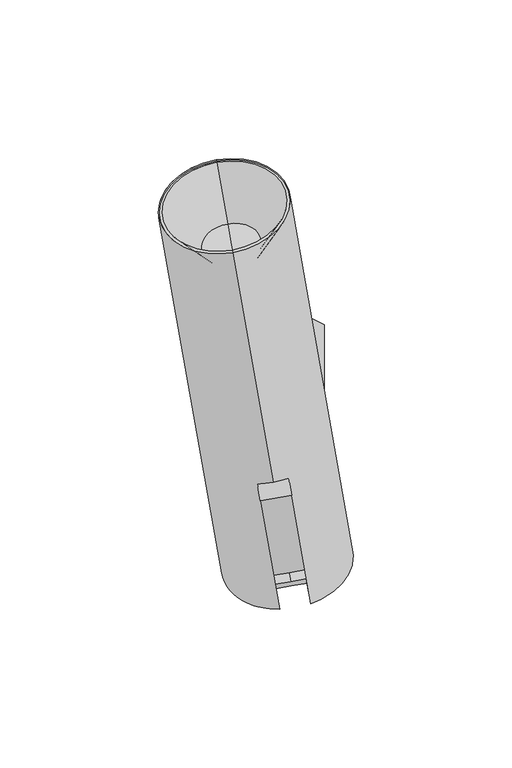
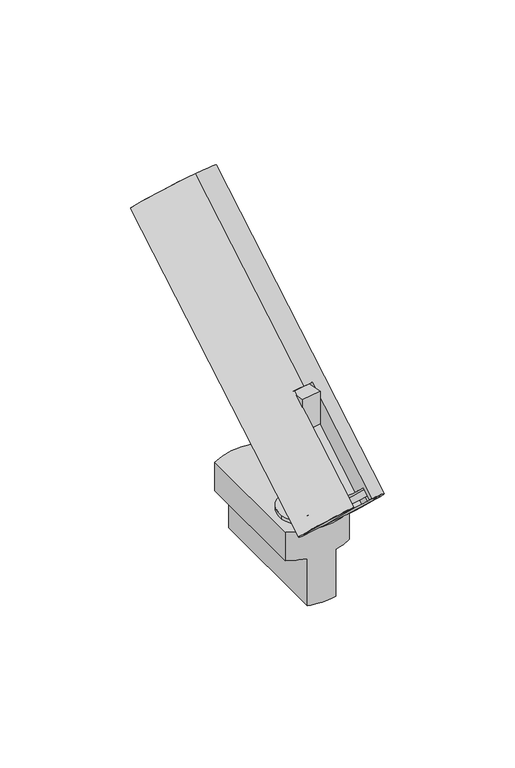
"""IFC4 building model written with IfcOpenShell, lengths in millimetres: light fixture geometry, PIPES T XS : 630lm 7,8W 840 38°."""

import ifcopenshell
import ifcopenshell.guid

model = None  # the IFC model being written
_history = None  # IfcOwnerHistory: only IFC2X3 demands one
_inside = {}  # id of a spatial element -> (the spatial element, [elements in it])
_under = {}  # id of a project, library or spatial element -> (it, [spatial elements below it])
_declared = {}  # id of a project -> (the project, [libraries it declares])
_typed = {}  # id of a type object -> (the type object, [elements of that type])
_made_of = {}  # id of a material, layer set ... -> (it, [elements and type objects made of it])


def new_model(schema):
    """Start an empty IFC model of exactly this schema.

    Asked for "IFC4X3", IfcOpenShell would pick the latest addendum, in which some entities
    have other attributes; the version numbers below select the first issue.
    IFC2X3 requires an IfcOwnerHistory on every rooted entity: one is made here for all.
    """
    global model, _history
    if schema == "IFC4X3":
        model = ifcopenshell.file(schema_version=(4, 3, 0, 0))
    else:
        model = ifcopenshell.file(schema=schema)
    _inside.clear()
    _under.clear()
    _declared.clear()
    _typed.clear()
    _made_of.clear()
    _history = None
    if model.schema == "IFC2X3":
        org = make("IfcOrganization", Name="unknown")
        user = make(
            "IfcPersonAndOrganization",
            ThePerson=make("IfcPerson", FamilyName="unknown"),
            TheOrganization=org,
        )
        app = make(
            "IfcApplication",
            ApplicationDeveloper=org,
            Version="unknown",
            ApplicationFullName="unknown",
            ApplicationIdentifier="unknown",
        )
        _history = make(
            "IfcOwnerHistory",
            OwningUser=user,
            OwningApplication=app,
            ChangeAction="ADDED",
            CreationDate=0,
        )
    return model


def make(cls, **values):
    """One entity of the class cls with the attributes given. An attribute that is None is left unset."""
    return model.create_entity(
        cls, **{name: value for name, value in values.items() if value is not None}
    )


def rooted(cls, **values):
    """An entity with a GlobalId (a new one), such as an element, a storey or a relation."""
    return make(cls, GlobalId=ifcopenshell.guid.new(), OwnerHistory=_history, **values)


def si_unit(unit_type, name, prefix=None):
    """IfcSIUnit, for example si_unit("LENGTHUNIT", "METRE", prefix="MILLI")."""
    return make("IfcSIUnit", UnitType=unit_type, Prefix=prefix, Name=name)


def assignment(units):
    """IfcUnitAssignment: the units of a project."""
    return None if units is None else make("IfcUnitAssignment", Units=units)


def point(xyz):
    """IfcCartesianPoint."""
    return None if xyz is None else make("IfcCartesianPoint", Coordinates=xyz)


def direction(xyz):
    """IfcDirection."""
    return None if xyz is None else make("IfcDirection", DirectionRatios=xyz)


def frame(location, z_axis=None, x_axis=None):
    """IfcAxis2Placement3D, a coordinate frame: its origin and axes. An axis left out is left unset."""
    return make(
        "IfcAxis2Placement3D",
        Location=point(location),
        Axis=direction(z_axis),
        RefDirection=direction(x_axis),
    )


def frame_2d(location, x_axis=None):
    """IfcAxis2Placement2D, a coordinate frame in the plane: its origin and x axis."""
    return make(
        "IfcAxis2Placement2D", Location=point(location), RefDirection=direction(x_axis)
    )


def origin():
    """The frame at (0, 0, 0) with its axes left unset."""
    return frame((0.0, 0.0, 0.0))


def origin_2d():
    """The frame at (0, 0) in the plane with its x axis left unset."""
    return frame_2d((0.0, 0.0))


def place(relative_to, where):
    """IfcLocalPlacement: puts the frame where relative to a parent placement (None: the world)."""
    return make(
        "IfcLocalPlacement", PlacementRelTo=relative_to, RelativePlacement=where
    )


def context(
    kind, dimensions, precision=None, world=None, true_north=None, identifier=None
):
    """IfcGeometricRepresentationContext, for example the 3D "Model" context."""
    return make(
        "IfcGeometricRepresentationContext",
        ContextIdentifier=identifier,
        ContextType=kind,
        CoordinateSpaceDimension=dimensions,
        Precision=precision,
        WorldCoordinateSystem=world,
        TrueNorth=true_north,
    )


def project(units=None, contexts=None):
    """IfcProject with its units and contexts."""
    return rooted(
        "IfcProject",
        Name="project",
        RepresentationContexts=contexts,
        UnitsInContext=assignment(units),
    )


def spatial(cls, under=None, at=None, **own):
    """A site, building, storey or space (cls), placed at a placement, below another one or the project."""
    s = rooted(cls, ObjectPlacement=at, **own)
    if under is not None:
        _under.setdefault(under.id(), (under, []))[1].append(s)
    return s


def polyline(points):
    """IfcPolyline through the points."""
    return make("IfcPolyline", Points=[point(p) for p in points])


def circle_curve(where, radius):
    """IfcCircle in the frame where."""
    return make("IfcCircle", Position=where, Radius=radius)


def trimmed(basis, trim1, trim2, sense, master):
    """IfcTrimmedCurve: the piece of a basis curve between two trims."""
    return make(
        "IfcTrimmedCurve",
        BasisCurve=basis,
        Trim1=trim1,
        Trim2=trim2,
        SenseAgreement=sense,
        MasterRepresentation=master,
    )


def segment(curve, same_sense, transition):
    """IfcCompositeCurveSegment."""
    return make(
        "IfcCompositeCurveSegment",
        Transition=transition,
        SameSense=same_sense,
        ParentCurve=curve,
    )


def composite_curve(segments, self_intersect=None):
    """IfcCompositeCurve: segments joined end to end."""
    return make("IfcCompositeCurve", Segments=segments, SelfIntersect=self_intersect)


def outline(outer, holes=None, kind="AREA"):
    """IfcArbitraryClosedProfileDef: a profile drawn as a closed curve; with holes, ...WithVoids."""
    if holes is None:
        return make("IfcArbitraryClosedProfileDef", ProfileType=kind, OuterCurve=outer)
    return make(
        "IfcArbitraryProfileDefWithVoids",
        ProfileType=kind,
        OuterCurve=outer,
        InnerCurves=holes,
    )


def extrude(swept, where, along, depth):
    """IfcExtrudedAreaSolid: the profile swept, set in the frame where, extruded along a direction by depth."""
    return make(
        "IfcExtrudedAreaSolid",
        SweptArea=swept,
        Position=where,
        ExtrudedDirection=direction(along),
        Depth=depth,
    )


def shape(context_of_items, identifier, shape_type, items):
    """IfcShapeRepresentation: the items that make up one representation, for example the "Body"."""
    return make(
        "IfcShapeRepresentation",
        ContextOfItems=context_of_items,
        RepresentationIdentifier=identifier,
        RepresentationType=shape_type,
        Items=items,
    )


def source(mapping_origin, context_of_items, identifier, shape_type, items):
    """IfcRepresentationMap: a shape defined once, which mapped items show again and again."""
    return make(
        "IfcRepresentationMap",
        MappingOrigin=mapping_origin,
        MappedRepresentation=shape(context_of_items, identifier, shape_type, items),
    )


def transform(
    local_origin,
    x_axis=None,
    y_axis=None,
    z_axis=None,
    scale=None,
    scale2=None,
    scale3=None,
    uniform=True,
):
    """IfcCartesianTransformationOperator3D, or its non-uniform kind. x_axis, y_axis, z_axis: its Axis1, 2, 3."""
    if uniform:
        return make(
            "IfcCartesianTransformationOperator3D",
            Axis1=direction(x_axis),
            Axis2=direction(y_axis),
            LocalOrigin=point(local_origin),
            Scale=scale,
            Axis3=direction(z_axis),
        )
    return make(
        "IfcCartesianTransformationOperator3DnonUniform",
        Axis1=direction(x_axis),
        Axis2=direction(y_axis),
        LocalOrigin=point(local_origin),
        Scale=scale,
        Axis3=direction(z_axis),
        Scale2=scale2,
        Scale3=scale3,
    )


def mapped(mapping_source, mapping_target):
    """IfcMappedItem: shows the shape of a source again, moved by a transform."""
    return make(
        "IfcMappedItem", MappingSource=mapping_source, MappingTarget=mapping_target
    )


def made_of(thing, what):
    """Note that an element or type object is made of a material, layer set ...; save() writes the relation."""
    if what is not None:
        _made_of.setdefault(what.id(), (what, []))[1].append(thing)
    return thing


def element(
    cls,
    number,
    at=None,
    inside=None,
    cuts=None,
    type_object=None,
    material=None,
    context=None,
    identifier="Body",
    shape_type=None,
    held_by="IfcProductDefinitionShape",
    body=None,
    shapes=None,
    **own,
):
    """One element of the class cls, such as IfcWall. Its Tag is "e" and its number.

    at: its placement. inside: the storey or other place that contains it. cuts: it is an
    opening in that element (IfcRelVoidsElement). A single representation is given by context,
    identifier, shape_type and body (its items); several are given by shapes. held_by: the class
    of the entity that holds the representations. save() writes the other relations.
    """
    e = rooted(cls, Tag="e%d" % number, ObjectPlacement=at, **own)
    if body is not None:
        shapes = [shape(context, identifier, shape_type, body)]
    if shapes is not None:
        e.Representation = make(held_by, Representations=shapes)
    if inside is not None:
        _inside.setdefault(inside.id(), (inside, []))[1].append(e)
    if cuts is not None:
        rooted(
            "IfcRelVoidsElement", RelatingBuildingElement=cuts, RelatedOpeningElement=e
        )
    if type_object is not None:
        _typed.setdefault(type_object.id(), (type_object, []))[1].append(e)
    return made_of(e, material)


def aggregate(whole, parts):
    """IfcRelAggregates: a whole, such as a stair, and the parts it consists of."""
    return rooted("IfcRelAggregates", RelatingObject=whole, RelatedObjects=parts)


def save(model, path):
    """Write the relations noted so far, then the file.

    IfcRelAggregates (storeys below a building ...), IfcRelContainedInSpatialStructure (elements
    in a storey), IfcRelDefinesByType, IfcRelAssociatesMaterial and IfcRelDeclares: one each for
    every whole, place, type object, material and project.
    """
    for whole, parts in _under.values():
        aggregate(whole, parts)
    for where, things in _inside.values():
        rooted(
            "IfcRelContainedInSpatialStructure",
            RelatedElements=things,
            RelatingStructure=where,
        )
    for kind, things in _typed.values():
        rooted("IfcRelDefinesByType", RelatedObjects=things, RelatingType=kind)
    for what, things in _made_of.values():
        rooted("IfcRelAssociatesMaterial", RelatedObjects=things, RelatingMaterial=what)
    for by, libraries in _declared.values():
        rooted("IfcRelDeclares", RelatingContext=by, RelatedDefinitions=libraries)
    model.write(path)


def plane_surface(at):
    """IfcPlane: the flat surface through the origin of the frame at, square to its z axis."""
    return make("IfcPlane", Position=at)


def cylinder_surface(at, radius):
    """IfcCylindricalSurface: all points at the distance radius from the z axis of the frame at."""
    return make("IfcCylindricalSurface", Position=at, Radius=radius)


def revolved_surface(curve, axis_point, axis_direction):
    """IfcSurfaceOfRevolution: the curve turned about the line through axis_point along axis_direction."""
    return make(
        "IfcSurfaceOfRevolution",
        SweptCurve=make("IfcArbitraryOpenProfileDef", ProfileType="CURVE", Curve=curve),
        AxisPosition=make("IfcAxis1Placement", Location=point(axis_point), Axis=direction(axis_direction)),
    )


def advanced_brep(points, edges, surfaces, faces):
    """IfcAdvancedBrep: a solid bounded by faces that lie on surfaces and meet in shared edges.

    An edge is (start, end): straight between two places in points (the first is 0);
    or (start, end, curve); or (start, end, curve, False) where it runs against its curve.
    A face is (place in surfaces, loops), or (place, loops, False) where it looks against
    its surface's normal. A loop lists edges by number (the first is 1), with a minus sign
    where the edge is run from its end to its start. The first loop is the outer one.
    """
    corners = [point(p) for p in points]
    vertices = [make("IfcVertexPoint", VertexGeometry=c) for c in corners]
    made = []
    for start, end, *more in edges:
        made.append(
            make(
                "IfcEdgeCurve",
                EdgeStart=vertices[start],
                EdgeEnd=vertices[end],
                EdgeGeometry=more[0] if more else make("IfcPolyline", Points=[corners[start], corners[end]]),
                SameSense=more[1] if len(more) > 1 else True,
            )
        )
    hull = []
    for where, loops, *sense in faces:
        bounds = []
        for j, loop in enumerate(loops):
            ring = [make("IfcOrientedEdge", EdgeElement=made[abs(k) - 1], Orientation=k > 0) for k in loop]
            bounds.append(
                make(
                    "IfcFaceOuterBound" if j == 0 else "IfcFaceBound",
                    Bound=make("IfcEdgeLoop", EdgeList=ring),
                    Orientation=True,
                )
            )
        hull.append(make("IfcAdvancedFace", Bounds=bounds, FaceSurface=surfaces[where], SameSense=sense[0] if sense else True))
    return make("IfcAdvancedBrep", Outer=make("IfcClosedShell", CfsFaces=hull))


def light_fixture_bf18bd5a(model_context):
    return source(origin(), model_context, "Body", "SolidModel", [
        extrude(outline(composite_curve([segment(polyline([(39.7303383, 0.0), (39.7303383, -8.0), (36.7303383, -8.0), (36.7303383, -10.0000001), (-21.31827, -10.0000001), (-21.31827, -2.0)]), True, "CONTINUOUS"), segment(trimmed(circle_curve(frame_2d((-15.691322, -2.0)), 5.626948), [point((-21.31827, -2.0))], [point((-15.691322, 3.626948))], False, "CARTESIAN"), True, "CONTINUOUS"), segment(polyline([(-15.691322, 3.626948), (-9.8735653, 3.626948)]), True, "CONTINUOUS"), segment(trimmed(circle_curve(frame_2d((-17.7182036, -2.2388678)), 9.7952104), [point((-9.8735653, 3.626948))], [point((-8.1822916, 0.0))], False, "CARTESIAN"), True, "CONTINUOUS"), segment(polyline([(-8.1822916, 0.0), (39.7303383, 0.0)]), True, "CONTINUOUS")], self_intersect=False)), frame((-5.7922797, 4.0557979, 56.5303383), z_axis=(0.9848077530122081, 0.1736481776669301, 0.0), x_axis=(0.0, 0.0, -1.0)), (0.0, 0.0, 1.0), 10.0),
        extrude(outline(composite_curve([segment(trimmed(circle_curve(origin_2d(), 12.5), [point((12.3100969, 2.1706022))], [point((-12.3100969, -2.1706022))], False, "CARTESIAN"), True, "CONTINUOUS"), segment(trimmed(circle_curve(origin_2d(), 12.5), [point((-12.3100969, -2.1706022))], [point((12.3100969, 2.1706022))], False, "CARTESIAN"), True, "CONTINUOUS")], self_intersect=False)), frame((0.0, 0.0, 15.0), z_axis=(0.0, 0.0, 1.0), x_axis=(1.0, 0.0, 0.0)), (0.0, 0.0, 1.0), 1.8),
        advanced_brep(
        [(-7.1153658, -15.2862846, -25.0), (-7.1153658, 53.3498174, -25.0), (7.1153658, 53.3498174, -25.0), (7.1153658, -15.2862846, -25.0), (-16.1153658, 49.7317664, 15.0), (-16.1153658, -11.6682336, 15.0), (16.1153658, -11.6682336, 15.0), (16.1153658, 49.7317664, 15.0), (-16.1153658, 49.7317664, 0.0), (-16.1153658, -11.6682336, 0.0), (-7.1153658, -15.2862846, 0.0), (7.1153658, -15.2862846, 0.0), (16.1153658, -11.6682336, 0.0), (16.1153658, 49.7317664, 0.0), (7.1153658, 53.3498174, 0.0), (-7.1153658, 53.3498174, 0.0)],
        [
            (0, 1),
            (1, 2, circle_curve(frame((0.0, 22.6472542, -25.0), z_axis=(0.0, 0.0, -1.0), x_axis=(1.0, 0.0, 0.0)), 31.5162786)),
            (2, 3),
            (3, 0, circle_curve(frame((0.0, 15.4162786, -25.0), z_axis=(0.0, 0.0, -1.0), x_axis=(1.0, 0.0, 0.0)), 31.5162786)),
            (4, 5),
            (5, 6, circle_curve(frame((0.0, 15.4162786, 15.0), z_axis=(0.0, 0.0, 1.0), x_axis=(1.0, 0.0, 0.0)), 31.5162786)),
            (6, 7),
            (7, 4, circle_curve(frame((0.0, 22.6472542, 15.0), z_axis=(0.0, 0.0, 1.0), x_axis=(1.0, 0.0, 0.0)), 31.5162786)),
            (4, 8),
            (8, 9),
            (9, 5),
            (9, 10, circle_curve(frame((0.0, 15.4162786, 0.0), z_axis=(0.0, 0.0, 1.0), x_axis=(1.0, 0.0, 0.0)), 31.5162786)),
            (10, 0),
            (3, 11),
            (11, 12, circle_curve(frame((0.0, 15.4162786, 0.0), z_axis=(0.0, 0.0, 1.0), x_axis=(1.0, 0.0, 0.0)), 31.5162786)),
            (12, 6),
            (12, 13),
            (13, 7),
            (13, 14, circle_curve(frame((0.0, 22.6472542, 0.0), z_axis=(0.0, 0.0, 1.0), x_axis=(1.0, 0.0, 0.0)), 31.5162786)),
            (14, 2),
            (1, 15),
            (15, 8, circle_curve(frame((0.0, 22.6472542, 0.0), z_axis=(0.0, 0.0, 1.0), x_axis=(1.0, 0.0, 0.0)), 31.5162786)),
            (15, 10),
            (11, 14),
        ],
        [
            plane_surface(frame((-16.1153658, -11.6883244, -25.0), z_axis=(0.0, 0.0, -1.0), x_axis=(0.0, 1.0, 0.0))),
            plane_surface(frame((-16.1153658, -11.6883244, 15.0), z_axis=(0.0, 0.0, 1.0), x_axis=(0.0, -1.0, 0.0))),
            plane_surface(frame((-16.1153658, 49.7317664, 15.0), z_axis=(-1.0, 0.0, 0.0), x_axis=(0.0, 0.0, -1.0))),
            cylinder_surface(frame((0.0, 15.4162786, -25.0), z_axis=(0.0, 0.0, 1.0), x_axis=(1.0, 0.0, 0.0)), 31.5162786),
            plane_surface(frame((16.1153658, -11.6682336, 15.0), z_axis=(1.0, 0.0, 0.0), x_axis=(0.0, 0.0, -1.0))),
            cylinder_surface(frame((0.0, 22.6472542, -25.0), z_axis=(0.0, 0.0, 1.0), x_axis=(1.0, 0.0, 0.0)), 31.5162786),
            plane_surface(frame((-7.1153658, 58.6979838, 0.0), z_axis=(0.0, 0.0, -1.0), x_axis=(-1.0, 0.0, 0.0))),
            plane_surface(frame((-7.1153658, -21.3020162, 0.0), z_axis=(-1.0, 0.0, 0.0), x_axis=(0.0, 0.0, -1.0))),
            plane_surface(frame((7.1153658, -11.6883244, 0.0), z_axis=(0.0, 0.0, -1.0), x_axis=(0.0, -1.0, 0.0))),
            plane_surface(frame((7.1153658, 58.6979838, 0.0), z_axis=(1.0, 0.0, 0.0), x_axis=(0.0, 0.0, -1.0))),
        ],
        [
            (0, [[1, 2, 3, 4]]),
            (1, [[5, 6, 7, 8]]),
            (2, [[-5, 9, 10, 11]]),
            (3, [[-6, -11, 12, 13, -4, 14, 15, 16]]),
            (4, [[-7, -16, 17, 18]]),
            (5, [[-8, -18, 19, 20, -2, 21, 22, -9]]),
            (6, [[23, -12, -10, -22]]),
            (7, [[-23, -21, -1, -13]]),
            (8, [[24, -19, -17, -15]]),
            (9, [[-24, -14, -3, -20]]),
        ],
    ),
        advanced_brep(
        [(3.6961607, 7.8318833, 73.0), (9.9583387, -27.682693, 36.9375542), (10.8584105, -32.7872537, 42.120861), (11.5951373, -36.9654391, 37.8782203), (11.8487893, -38.4039712, 39.338944), (4.8498845, 1.2887905, 79.6440305), (-6.1519168, 6.0954015, 73.0), (-4.998193, -0.4476912, 79.6440305), (2.0007118, -40.1404529, 39.338944), (1.7470598, -38.7019209, 37.8782203), (1.010333, -34.5237355, 42.120861), (0.1102612, -29.4191747, 36.9375542), (5.0343, -28.5509339, 36.9375542), (0.0, 0.0, 80.0710678), (-12.7699316, 72.421881, 153.6101731), (-17.9270194, 101.6691791, 123.9116882), (1.8418171, -10.4454636, 10.0674965), (2.0873927, -11.8381921, 11.48171), (1.3506658, -7.6600066, 15.7243507), (3.6836341, -20.8909272, 29.1593796), (-14.3047792, 81.126434, 118.6083874), (-11.8490231, 67.1991492, 132.750523), (-13.0769011, 74.1627916, 125.6794552)],
        [
            (0, 1),
            (1, 2),
            (2, 3),
            (3, 4),
            (4, 5),
            (5, 0),
            (6, 7),
            (7, 8),
            (8, 9),
            (9, 10),
            (10, 11),
            (11, 6),
            (0, 6),
            (11, 12),
            (12, 1),
            (5, 13, circle_curve(frame((-2.5785439, 14.623649, 65.2218254), z_axis=(0.12278780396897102, -0.696364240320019, -0.7071067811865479), x_axis=(0.12278780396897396, -0.6963642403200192, 0.7071067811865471)), 21.0)),
            (13, 7, circle_curve(frame((-2.5785439, 14.623649, 65.2218254), z_axis=(0.12278780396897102, -0.696364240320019, -0.7071067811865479), x_axis=(0.12278780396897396, -0.6963642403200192, 0.7071067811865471)), 21.0)),
            (14, 15, circle_curve(frame((-15.3484755, 87.04553, 138.7609307), z_axis=(0.12278780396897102, -0.696364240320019, -0.7071067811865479), x_axis=(0.12278780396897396, -0.6963642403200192, 0.7071067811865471)), 21.0)),
            (15, 16),
            (16, 8, circle_curve(frame((4.4203609, -25.0691127, 24.9167389), z_axis=(-0.12278780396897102, 0.696364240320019, 0.7071067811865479), x_axis=(0.12278780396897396, -0.6963642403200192, 0.7071067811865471)), 21.0)),
            (13, 14),
            (15, 14, circle_curve(frame((-15.3484755, 87.04553, 138.7609307), z_axis=(0.12278780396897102, -0.696364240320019, -0.7071067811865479), x_axis=(0.12278780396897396, -0.6963642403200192, 0.7071067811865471)), 21.0)),
            (4, 16, circle_curve(frame((4.4203609, -25.0691127, 24.9167389), z_axis=(-0.12278780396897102, 0.696364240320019, 0.7071067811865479), x_axis=(0.12278780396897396, -0.6963642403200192, 0.7071067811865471)), 21.0)),
            (16, 17),
            (17, 9, circle_curve(frame((4.4203609, -25.0691127, 24.9167389), z_axis=(-0.12278780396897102, 0.696364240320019, 0.7071067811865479), x_axis=(0.12278780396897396, -0.6963642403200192, 0.7071067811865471)), 19.0)),
            (3, 17, circle_curve(frame((4.4203609, -25.0691127, 24.9167389), z_axis=(-0.12278780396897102, 0.696364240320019, 0.7071067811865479), x_axis=(0.12278780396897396, -0.6963642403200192, 0.7071067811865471)), 19.0)),
            (17, 18),
            (18, 10, circle_curve(frame((3.6836341, -20.8909272, 29.1593796), z_axis=(-0.12278780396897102, 0.696364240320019, 0.7071067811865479), x_axis=(0.12278780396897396, -0.6963642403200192, 0.7071067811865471)), 19.0)),
            (2, 18, circle_curve(frame((3.6836341, -20.8909272, 29.1593796), z_axis=(-0.12278780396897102, 0.696364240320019, 0.7071067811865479), x_axis=(0.12278780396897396, -0.6963642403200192, 0.7071067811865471)), 19.0)),
            (18, 19),
            (19, 12),
            (20, 21, circle_curve(frame((-13.0769011, 74.1627916, 125.6794552), z_axis=(-0.12278780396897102, 0.696364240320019, 0.7071067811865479), x_axis=(0.12278780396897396, -0.6963642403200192, 0.7071067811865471)), 10.0)),
            (21, 22),
            (22, 20),
            (21, 20, circle_curve(frame((-13.0769011, 74.1627916, 125.6794552), z_axis=(-0.12278780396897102, 0.696364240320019, 0.7071067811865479), x_axis=(0.12278780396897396, -0.6963642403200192, 0.7071067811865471)), 10.0)),
            (14, 21),
            (20, 15),
        ],
        [
            plane_surface(frame((3.6961607, 7.8318833, 73.0), z_axis=(-0.9848077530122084, -0.1736481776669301, 0.0), x_axis=(-0.12278780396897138, 0.696364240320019, 0.7071067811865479))),
            plane_surface(frame((-6.1519168, 6.0954015, 73.0), z_axis=(0.9848077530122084, 0.1736481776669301, 0.0), x_axis=(0.12278780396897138, -0.696364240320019, -0.7071067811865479))),
            plane_surface(frame((-6.1519168, 6.0954015, 73.0), z_axis=(0.12278780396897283, -0.6963642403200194, 0.7071067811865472), x_axis=(0.9848077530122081, 0.1736481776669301, 0.0))),
            plane_surface(frame((-3.6961607, -7.8318833, 87.1421356), z_axis=(0.12278780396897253, -0.6963642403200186, -0.707106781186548), x_axis=(0.9848077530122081, 0.1736481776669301, 0.0))),
            cylinder_surface(frame((5.4582102, -30.9550485, 18.940003), z_axis=(0.12278780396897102, -0.696364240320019, -0.7071067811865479), x_axis=(0.12278780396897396, -0.6963642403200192, 0.7071067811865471)), 21.0),
            plane_surface(frame((4.4203609, -25.0691127, 24.9167389), z_axis=(0.12278780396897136, -0.6963642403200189, -0.707106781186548), x_axis=(0.12278780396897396, -0.6963642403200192, 0.7071067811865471))),
            revolved_surface(polyline([(6.753329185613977, -38.30003325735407, 38.35176769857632), (6.016602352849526, -34.12184776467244, 42.5944084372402)]), (5.4582102, -30.9550485, 18.940003), (0.12278780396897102, -0.696364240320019, -0.7071067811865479)),
            plane_surface(frame((3.6836341, -20.8909272, 29.1593796), z_axis=(0.12278780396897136, -0.6963642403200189, -0.707106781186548), x_axis=(0.12278780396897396, -0.6963642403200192, 0.7071067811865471))),
            plane_surface(frame((-13.0769011, 74.1627916, 125.6794552), z_axis=(-0.12278780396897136, 0.6963642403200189, 0.707106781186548), x_axis=(0.12278780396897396, -0.6963642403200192, 0.7071067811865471))),
            revolved_surface(polyline([(-11.8490231, 67.1991492, 132.750523), (-12.7699316, 72.421881, 153.6101731)]), (5.4582102, -30.9550485, 18.940003), (0.12278780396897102, -0.696364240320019, -0.7071067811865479)),
        ],
        [
            (0, [[1, 2, 3, 4, 5, 6]]),
            (1, [[7, 8, 9, 10, 11, 12]]),
            (2, [[13, -12, 14, 15, -1]]),
            (3, [[-13, -6, 16, 17, -7]]),
            (4, [[18, 19, 20, -8, -17, 21]]),
            (4, [[-19, 22, -21, -16, -5, 23]]),
            (5, [[24, 25, -9, -20]]),
            (5, [[-24, -23, -4, 26]]),
            (6, [[27, 28, -10, -25]]),
            (6, [[-27, -26, -3, 29]]),
            (7, [[30, 31, -14, -11, -28]]),
            (7, [[-30, -29, -2, -15, -31]]),
            (8, [[32, 33, 34]]),
            (8, [[-33, 35, -34]]),
            (9, [[-18, 36, -32, 37]]),
            (9, [[-22, -37, -35, -36]]),
        ],
    ),
        advanced_brep(
        [(10.4494899, -30.4681499, 34.109127), (10.6950656, -31.8608784, 32.6949135), (11.3386487, -35.51082, 36.4011613), (11.0930731, -34.1180915, 37.8153748), (0.846988, -33.5973602, 32.6949135), (0.6014124, -32.2046317, 34.109127), (1.2449956, -35.8545733, 37.8153748), (1.4905712, -37.2473018, 36.4011613), (5.5254512, -31.3363908, 34.109127), (5.7710268, -32.7291193, 32.6949135), (4.1747853, -23.6763842, 26.3309524), (2.0881732, -11.8426186, 14.314632), (2.3337488, -13.2353471, 12.9004184), (4.4203609, -25.0691127, 24.9167389)],
        [
            (0, 1),
            (1, 2),
            (2, 3),
            (3, 0),
            (4, 5),
            (5, 6),
            (6, 7),
            (7, 4),
            (0, 8),
            (8, 5),
            (4, 9),
            (9, 1),
            (10, 11),
            (11, 6, circle_curve(frame((4.1747853, -23.6763842, 26.3309524), z_axis=(-0.12278780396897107, 0.6963642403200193, 0.7071067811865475), x_axis=(0.12278780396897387, -0.6963642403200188, 0.7071067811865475)), 16.9936434)),
            (8, 10),
            (3, 11, circle_curve(frame((4.1747853, -23.6763842, 26.3309524), z_axis=(-0.12278780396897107, 0.6963642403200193, 0.7071067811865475), x_axis=(0.12278780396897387, -0.6963642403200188, 0.7071067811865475)), 16.9936434)),
            (11, 12),
            (12, 7, circle_curve(frame((4.4203609, -25.0691127, 24.9167389), z_axis=(-0.12278780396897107, 0.6963642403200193, 0.7071067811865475), x_axis=(0.12278780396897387, -0.6963642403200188, 0.7071067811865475)), 16.9936434)),
            (2, 12, circle_curve(frame((4.4203609, -25.0691127, 24.9167389), z_axis=(-0.12278780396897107, 0.6963642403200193, 0.7071067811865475), x_axis=(0.12278780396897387, -0.6963642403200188, 0.7071067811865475)), 16.9936434)),
            (12, 13),
            (13, 9),
        ],
        [
            plane_surface(frame((3.6961607, 7.8318833, 73.0), z_axis=(-0.9848077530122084, -0.1736481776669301, 0.0), x_axis=(-0.12278780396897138, 0.696364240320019, 0.7071067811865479))),
            plane_surface(frame((-6.1519168, 6.0954015, 73.0), z_axis=(0.9848077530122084, 0.1736481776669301, 0.0), x_axis=(0.12278780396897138, -0.696364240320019, -0.7071067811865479))),
            plane_surface(frame((-6.1519168, 6.0954015, 73.0), z_axis=(0.12278780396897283, -0.6963642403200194, 0.7071067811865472), x_axis=(0.9848077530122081, 0.1736481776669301, 0.0))),
            plane_surface(frame((4.1747853, -23.6763842, 26.3309524), z_axis=(-0.12278780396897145, 0.6963642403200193, 0.7071067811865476), x_axis=(0.12278780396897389, -0.6963642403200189, 0.7071067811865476))),
            cylinder_surface(frame((-11.7934762, 66.8841273, 118.2885057), z_axis=(0.12278780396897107, -0.6963642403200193, -0.7071067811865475), x_axis=(0.12278780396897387, -0.6963642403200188, 0.7071067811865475)), 16.9936434),
            plane_surface(frame((4.4203609, -25.0691127, 24.9167389), z_axis=(0.12278780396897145, -0.6963642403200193, -0.7071067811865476), x_axis=(0.12278780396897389, -0.6963642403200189, 0.7071067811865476))),
        ],
        [
            (0, [[1, 2, 3, 4]]),
            (1, [[5, 6, 7, 8]]),
            (2, [[-1, 9, 10, -5, 11, 12]]),
            (3, [[13, 14, -6, -10, 15]]),
            (3, [[-13, -15, -9, -4, 16]]),
            (4, [[17, 18, -7, -14]]),
            (4, [[-17, -16, -3, 19]]),
            (5, [[20, 21, -11, -8, -18]]),
            (5, [[-20, -19, -2, -12, -21]]),
        ],
    ),
        advanced_brep(
        [(-14.3577223, 81.4266896, 119.7177134), (-12.0416555, 68.2916221, 133.0554105), (-13.1996889, 74.8591558, 126.386562), (-17.7841658, 100.859016, 124.7343494), (-12.9127852, 73.2320441, 152.7875119), (-17.9270194, 101.6691791, 123.9116882), (-12.7699316, 72.421881, 153.6101731), (-14.3047792, 81.126434, 118.6083874), (-11.8490231, 67.1991492, 132.750523), (-13.0769011, 74.1627916, 125.6794552)],
        [
            (0, 1, circle_curve(frame((-13.1996889, 74.8591558, 126.386562), z_axis=(-0.12278780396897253, 0.6963642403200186, 0.7071067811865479), x_axis=(0.12278780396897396, -0.6963642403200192, 0.7071067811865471)), 9.431176)),
            (1, 2),
            (2, 0),
            (1, 0, circle_curve(frame((-13.1996889, 74.8591558, 126.386562), z_axis=(-0.12278780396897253, 0.6963642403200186, 0.7071067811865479), x_axis=(0.12278780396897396, -0.6963642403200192, 0.7071067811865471)), 9.431176)),
            (3, 4, circle_curve(frame((-15.3484755, 87.04553, 138.7609307), z_axis=(-0.12278780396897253, 0.6963642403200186, 0.7071067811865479), x_axis=(0.12278780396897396, -0.6963642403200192, 0.7071067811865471)), 19.8365814)),
            (4, 1),
            (0, 3),
            (4, 3, circle_curve(frame((-15.3484755, 87.04553, 138.7609307), z_axis=(-0.12278780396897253, 0.6963642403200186, 0.7071067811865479), x_axis=(0.12278780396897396, -0.6963642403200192, 0.7071067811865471)), 19.8365814)),
            (5, 6, circle_curve(frame((-15.3484755, 87.04553, 138.7609307), z_axis=(-0.12278780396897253, 0.6963642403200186, 0.7071067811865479), x_axis=(0.12278780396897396, -0.6963642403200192, 0.7071067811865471)), 21.0)),
            (6, 4),
            (3, 5),
            (6, 5, circle_curve(frame((-15.3484755, 87.04553, 138.7609307), z_axis=(-0.12278780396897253, 0.6963642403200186, 0.7071067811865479), x_axis=(0.12278780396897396, -0.6963642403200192, 0.7071067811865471)), 21.0)),
            (7, 8, circle_curve(frame((-13.0769011, 74.1627916, 125.6794552), z_axis=(-0.12278780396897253, 0.6963642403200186, 0.7071067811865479), x_axis=(0.12278780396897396, -0.6963642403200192, 0.7071067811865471)), 10.0)),
            (8, 6),
            (5, 7),
            (8, 7, circle_curve(frame((-13.0769011, 74.1627916, 125.6794552), z_axis=(-0.12278780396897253, 0.6963642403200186, 0.7071067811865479), x_axis=(0.12278780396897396, -0.6963642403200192, 0.7071067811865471)), 10.0)),
            (9, 8),
            (7, 9),
        ],
        [
            plane_surface(frame((-13.1996889, 74.8591558, 126.386562), z_axis=(-0.12278780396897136, 0.6963642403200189, 0.707106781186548), x_axis=(0.12278780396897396, -0.6963642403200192, 0.7071067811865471))),
            revolved_surface(polyline([(-12.0416555, 68.2916221, 133.0554105), (-12.9127852, 73.2320441, 152.7875119)]), (7.9139663, -44.8823333, 4.7978674), (0.12278780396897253, -0.6963642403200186, -0.7071067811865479)),
            plane_surface(frame((-15.3484755, 87.04553, 138.7609307), z_axis=(-0.12278780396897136, 0.6963642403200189, 0.707106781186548), x_axis=(0.12278780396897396, -0.6963642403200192, 0.7071067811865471))),
            revolved_surface(polyline([(-12.7699316, 72.421881, 153.6101731), (-11.8490231, 67.1991492, 132.750523)]), (7.9139663, -44.8823333, 4.7978674), (0.12278780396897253, -0.6963642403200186, -0.7071067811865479)),
            plane_surface(frame((-13.0769011, 74.1627916, 125.6794552), z_axis=(0.12278780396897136, -0.6963642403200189, -0.707106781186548), x_axis=(0.12278780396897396, -0.6963642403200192, 0.7071067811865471))),
        ],
        [
            (0, [[1, 2, 3]]),
            (0, [[4, -3, -2]]),
            (1, [[5, 6, -1, 7]]),
            (1, [[8, -7, -4, -6]]),
            (2, [[9, 10, -5, 11]]),
            (2, [[12, -11, -8, -10]]),
            (3, [[13, 14, -9, 15]]),
            (3, [[16, -15, -12, -14]]),
            (4, [[17, -13, 18]]),
            (4, [[-18, -16, -17]]),
        ],
    ),
    ])


if __name__ == "__main__":
    model = new_model("IFC4")
    model_context = context("Model", 3, world=origin())
    ifc_project = project(units=[si_unit("LENGTHUNIT", "METRE", prefix="MILLI")], contexts=[model_context])
    site = spatial("IfcSite", under=ifc_project)
    building = spatial("IfcBuilding", under=site)
    placement = place(None, origin())
    light_fixture_shape = light_fixture_bf18bd5a(model_context)
    element("IfcLightFixture", 1, ObjectType="PIPES T XS : 630lm 7,8W 840 38°", at=placement, inside=building, context=model_context, shape_type="MappedRepresentation", body=[
        mapped(light_fixture_shape, transform((0.0, 0.0, 0.0), x_axis=(1.0, 0.0, 0.0), y_axis=(0.0, 1.0, 0.0), z_axis=(0.0, 0.0, 1.0))),
    ])
    save(model, "model.ifc")
